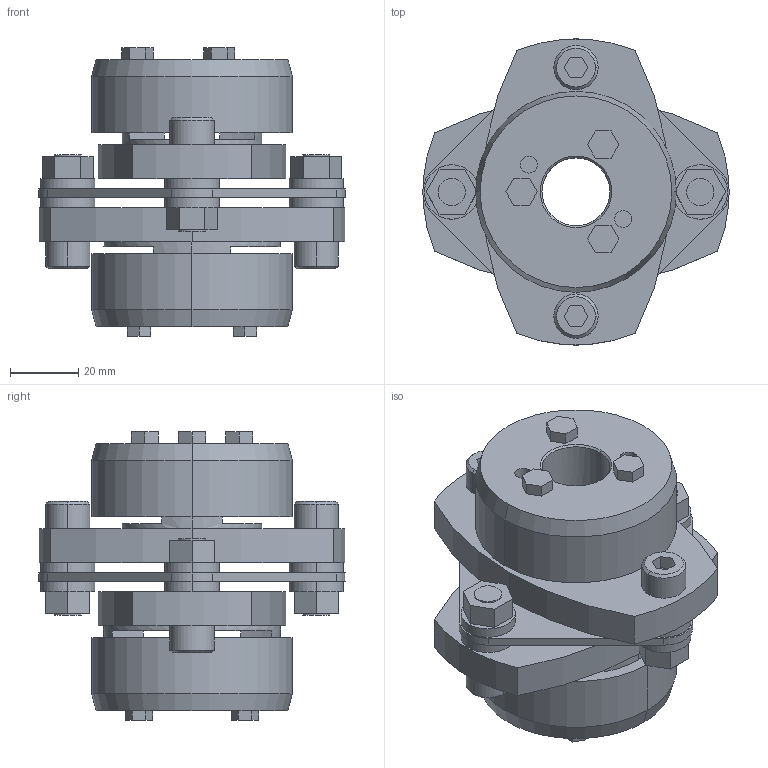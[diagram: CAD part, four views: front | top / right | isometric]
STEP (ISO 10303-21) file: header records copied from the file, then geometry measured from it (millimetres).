
FILE_DESCRIPTION((''),'2;1');
FILE_NAME('LCS-90T7-20×32.stp','2011-09-09T10:04:17',(''),(''),'AutoCAD STEP 2000i','AutoCAD 2000i',', , ');
FILE_SCHEMA(('CONFIG_CONTROL_DESIGN'));
Length unit declared in the file: millimetre
Products named in the file (10): LCS-90T7-19×32; 忣兜1; LC90T7-T032; LC90T7-T030; LC90T7-T025; LC90T7-T019-1; LC90T7-T019; LC90-B019-1; LC90-B019; LCS90-ITA
Assembly tree (9 placements, depth 2):
  LCS-90T7-19×32
    忣兜1
    LC90T7-T032
    LC90T7-T030
    LC90T7-T025
    LC90T7-T019-1
    LC90T7-T019
    LC90-B019-1
    LC90-B019
    LCS90-ITA
Bounding box: 90 x 89.94 x 84.8 mm (x, y, z)
Volume: 191674.2 mm3; surface area: 51648.3 mm2
Topology: 1 solids, 1 shells, 239 faces, 586 edges, 384 vertices
Faces by surface type: plane 139, cylinder 80, cone 20
Entity records: 7313 total; most frequent: DIRECTION 1280, CARTESIAN_POINT 1219, ORIENTED_EDGE 1172, EDGE_CURVE 586, AXIS2_PLACEMENT_3D 445, VECTOR 390, LINE 390, VERTEX_POINT 384
